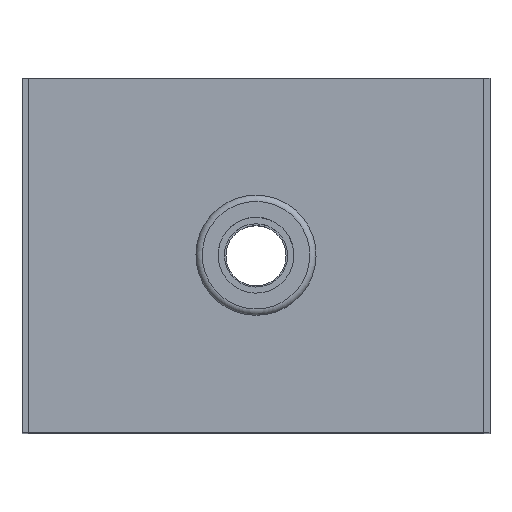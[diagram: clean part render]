
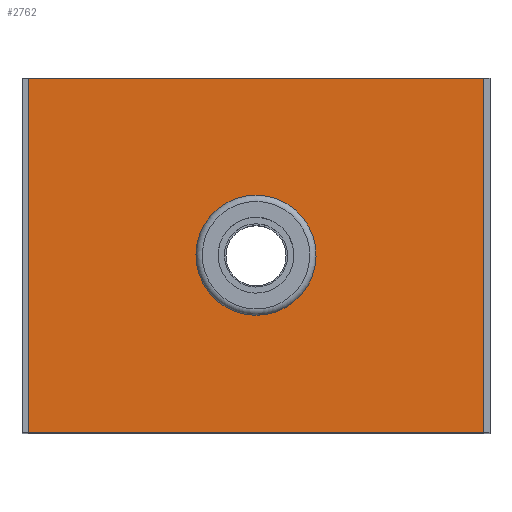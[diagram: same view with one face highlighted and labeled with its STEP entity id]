
A CAD part, top view. The second image highlights one B-rep face of the part: STEP entity #2762.
In plain terms, the highlighted planar face has unit normal (0, 0, 1).
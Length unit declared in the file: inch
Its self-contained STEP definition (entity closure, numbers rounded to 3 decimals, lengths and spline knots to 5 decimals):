
#123=FACE_BOUND('',#567,.T.);
#124=FACE_BOUND('',#568,.T.);
#240=PLANE('',#2975);
#567=EDGE_LOOP('',(#2035));
#568=EDGE_LOOP('',(#2036,#2037,#2038,#2039));
#755=LINE('',#14578,#937);
#757=LINE('',#14582,#939);
#758=LINE('',#14584,#940);
#759=LINE('',#14585,#941);
#937=VECTOR('',#3364,9.);
#939=VECTOR('',#3368,7.);
#940=VECTOR('',#3369,9.);
#941=VECTOR('',#3370,7.);
#1098=CIRCLE('',#2964,0.9375);
#1250=VERTEX_POINT('',#14539);
#1263=VERTEX_POINT('',#14575);
#1264=VERTEX_POINT('',#14577);
#1265=VERTEX_POINT('',#14581);
#1266=VERTEX_POINT('',#14583);
#1530=EDGE_CURVE('',#1250,#1250,#1098,.T.);
#1548=EDGE_CURVE('',#1264,#1263,#755,.T.);
#1550=EDGE_CURVE('',#1263,#1265,#757,.T.);
#1551=EDGE_CURVE('',#1266,#1265,#758,.T.);
#1552=EDGE_CURVE('',#1264,#1266,#759,.T.);
#2035=ORIENTED_EDGE('',*,*,#1530,.T.);
#2036=ORIENTED_EDGE('',*,*,#1550,.T.);
#2037=ORIENTED_EDGE('',*,*,#1551,.F.);
#2038=ORIENTED_EDGE('',*,*,#1552,.F.);
#2039=ORIENTED_EDGE('',*,*,#1548,.T.);
#2762=ADVANCED_FACE('',(#123,#124),#240,.T.);
#2964=AXIS2_PLACEMENT_3D('',#14540,#3329,#3330);
#2975=AXIS2_PLACEMENT_3D('',#14580,#3366,#3367);
#3329=DIRECTION('center_axis',(0.,0.,-1.));
#3330=DIRECTION('ref_axis',(-1.,0.,0.));
#3364=DIRECTION('',(-1.,0.,0.));
#3366=DIRECTION('center_axis',(0.,0.,1.));
#3367=DIRECTION('ref_axis',(-1.,0.,0.));
#3368=DIRECTION('',(0.,-1.,0.));
#3369=DIRECTION('',(-1.,0.,0.));
#3370=DIRECTION('',(0.,-1.,0.));
#14539=CARTESIAN_POINT('',(-0.9375,0.,0.));
#14540=CARTESIAN_POINT('Origin',(0.,0.,0.));
#14575=CARTESIAN_POINT('',(-4.5,3.5,0.));
#14577=CARTESIAN_POINT('',(4.5,3.5,0.));
#14578=CARTESIAN_POINT('',(4.5,3.5,0.));
#14580=CARTESIAN_POINT('Origin',(4.5,3.5,0.));
#14581=CARTESIAN_POINT('',(-4.5,-3.5,0.));
#14582=CARTESIAN_POINT('',(-4.5,1.75,0.));
#14583=CARTESIAN_POINT('',(4.5,-3.5,0.));
#14584=CARTESIAN_POINT('',(4.5,-3.5,0.));
#14585=CARTESIAN_POINT('',(4.5,1.75,0.));
